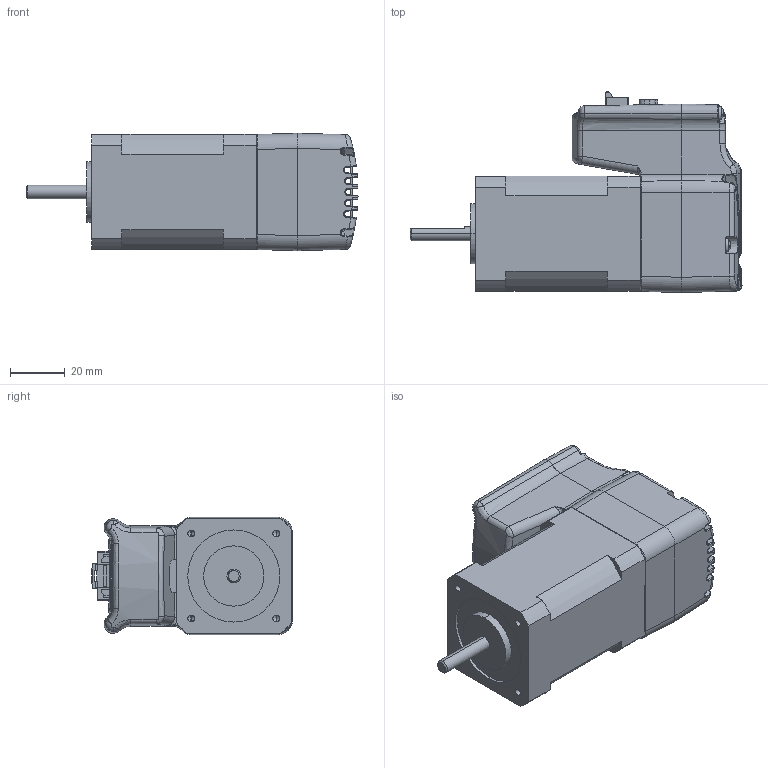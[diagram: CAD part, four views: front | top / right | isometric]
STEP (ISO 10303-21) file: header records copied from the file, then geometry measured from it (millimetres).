
FILE_DESCRIPTION (( 'STEP AP203' ), '1' );
FILE_NAME ('P26-MO-042-04-R00.STEP', '2015-04-15T06:37:03', ( '' ), ( '' ), 'SwSTEP 2.0', 'SolidWorks 2013', '' );
FILE_SCHEMA (( 'CONFIG_CONTROL_DESIGN' ));
Length unit declared in the file: millimetre
Products named in the file (20): 烹脚加档 汲沥 胶困摹; 瞪錳薄樓醴喀攪-4; M16-EC-042-01-R00; round cross head screw_ks_KS 1023 RC - M3 x 20-N; 瞪錳薄樓醴喀攪-5; M15-EC-042-02-R00; M25-MO-042-04-R00(BM-42XL-BT-01)_湀_; RS-232C 鱔褐醴喀攪; M26-EC-042-01-R00; P26-MO-042-04-R00; ﾆﾞｽｺ ﾀﾔｷﾂ ｹ貎ﾄ ｼｳﾁ､ ｽｺﾀｧﾄ｡-1; M15-EC-042-05-R00; ﾆﾞｽｺ ﾀﾔｷﾂ ｹ貎ﾄ ｼｳﾁ､ ｽｺﾀｧﾄ｡-2; ﾀﾔﾃ箙ﾂ ﾁ｢ｼﾓ ﾄｿｳﾘﾅﾍ; 蝶嬪纂-1; 瞪錳薄樓醴喀攪-1; 蝶嬪纂-2; 瞪錳薄樓醴喀攪-2; 匙飘况农 ID 钎矫 棺 惑怕 钎矫; 瞪錳薄樓醴喀攪-3
Assembly tree (23 placements, depth 2):
  P26-MO-042-04-R00
    M16-EC-042-01-R00
    M15-EC-042-02-R00
    M26-EC-042-01-R00
    M15-EC-042-05-R00
    ﾀﾔﾃ箙ﾂ ﾁ｢ｼﾓ ﾄｿｳﾘﾅﾍ
    瞪錳薄樓醴喀攪-1
    瞪錳薄樓醴喀攪-2
    瞪錳薄樓醴喀攪-3
    瞪錳薄樓醴喀攪-4
    瞪錳薄樓醴喀攪-5
    RS-232C 鱔褐醴喀攪  x2
    ﾆﾞｽｺ ﾀﾔｷﾂ ｹ貎ﾄ ｼｳﾁ､ ｽｺﾀｧﾄ｡-1
    ﾆﾞｽｺ ﾀﾔｷﾂ ｹ貎ﾄ ｼｳﾁ､ ｽｺﾀｧﾄ｡-2
    蝶嬪纂-1
    蝶嬪纂-2
    匙飘况农 ID 钎矫 棺 惑怕 钎矫
    烹脚加档 汲沥 胶困摹
    round cross head screw_ks_KS 1023 RC - M3 x 20-N  x4
    M25-MO-042-04-R00(BM-42XL-BT-01)_湀_
Bounding box: 121.09 x 73.3 x 42.8 mm (x, y, z)
Volume: 141051.6 mm3; surface area: 52387 mm2
Topology: 21 solids, 23 shells, 2290 faces, 5975 edges, 3739 vertices
Faces by surface type: plane 1151, cylinder 659, bspline 308, cone 88, torus 44, sphere 40
Entity records: 97189 total; most frequent: CARTESIAN_POINT 48517, ORIENTED_EDGE 10680, DIRECTION 7901, EDGE_CURVE 5359, VERTEX_POINT 3393, LINE 2897, VECTOR 2897, AXIS2_PLACEMENT_3D 2502
